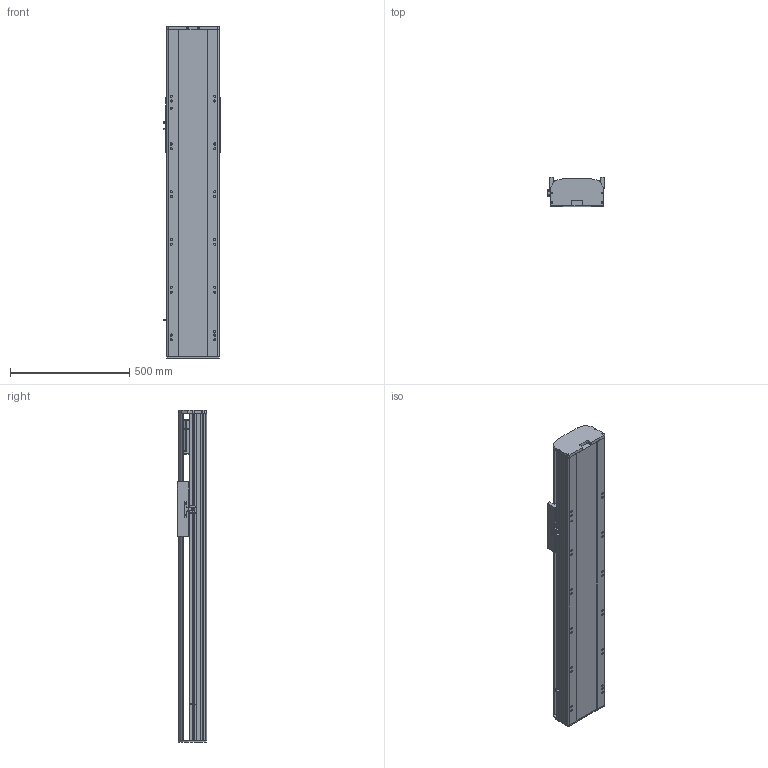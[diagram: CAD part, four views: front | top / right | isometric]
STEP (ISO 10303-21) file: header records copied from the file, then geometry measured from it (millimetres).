
FILE_DESCRIPTION (( 'STEP AP214' ), '1' );
FILE_NAME ('RTH22-XX-800-B-M75-C4.STEP', '2025-10-24T10:31:06', ( 'Microsoft' ), ( 'Microsoft' ), 'SwSTEP 2.0', 'SolidWorks 2018', '' );
FILE_SCHEMA (( 'AUTOMOTIVE_DESIGN' ));
Length unit declared in the file: millimetre
Products named in the file (9): N_RTH22-GY-001耜裔^RTH22-XX-XX-B-M75-C4; N_OMRON EE-SX672 传感器^RTH22-XX-XX-B-M75-C4; N_RTH22-GY-013外置感应片^RTH22-XX-XX-B-M75-C4; N_RTH22-B-007奻裔^RTH22-XX-XX-B-M75-C4; RTH22-XX-800-B-M75-C4; N_RTH22-B-011菁釱^RTH22-XX-XX-B-M75-C4; N_750W萇儂^RTH22-XX-XX-B-M75-C4; N_RTH22-E-004-SFS25賑釱^RTH22-XX-XX-B-M75-C4; N_RTH22-B-008萇儂啣^RTH22-XX-XX-B-M75-C4
Assembly tree (10 placements, depth 2):
  RTH22-XX-800-B-M75-C4
    N_RTH22-B-011菁釱^RTH22-XX-XX-B-M75-C4
    N_RTH22-GY-001耜裔^RTH22-XX-XX-B-M75-C4
    N_750W萇儂^RTH22-XX-XX-B-M75-C4
    N_RTH22-B-008萇儂啣^RTH22-XX-XX-B-M75-C4
    N_RTH22-B-007奻裔^RTH22-XX-XX-B-M75-C4
    N_OMRON EE-SX672 传感器^RTH22-XX-XX-B-M75-C4  x3
    N_RTH22-GY-013外置感应片^RTH22-XX-XX-B-M75-C4
    N_RTH22-E-004-SFS25賑釱^RTH22-XX-XX-B-M75-C4
Bounding box: 238.5 x 122 x 1390 mm (x, y, z)
Volume: 19150449.1 mm3; surface area: 1980953 mm2
Topology: 10 solids, 10 shells, 1515 faces, 4150 edges, 2683 vertices
Faces by surface type: plane 752, cylinder 430, bspline 279, cone 54
Entity records: 37433 total; most frequent: CARTESIAN_POINT 11697, ORIENTED_EDGE 5284, DIRECTION 4940, EDGE_CURVE 2642, VERTEX_POINT 1719, AXIS2_PLACEMENT_3D 1654, LINE 1632, VECTOR 1632
